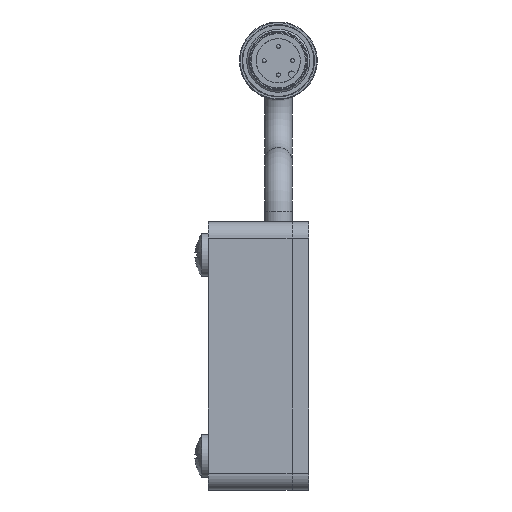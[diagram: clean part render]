
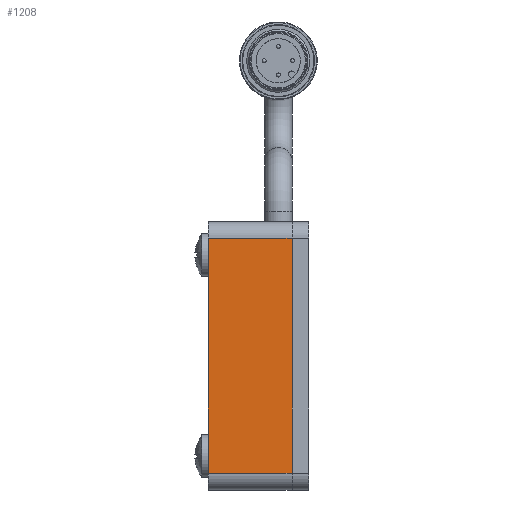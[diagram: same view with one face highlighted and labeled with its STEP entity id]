
A CAD part, left-side view. The second image highlights one B-rep face of the part: STEP entity #1208.
In plain terms, the highlighted planar face has unit normal (-1, 0, 0).
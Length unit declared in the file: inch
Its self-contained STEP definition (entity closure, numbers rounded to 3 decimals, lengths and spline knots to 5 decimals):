
#42 = CARTESIAN_POINT ( 'NONE',  ( -6.5, 0.3125, 1. ) ) ;
#144 = VERTEX_POINT ( 'NONE', #11715 ) ;
#347 = DIRECTION ( 'NONE',  ( 0., 1., 0. ) ) ;
#616 = VECTOR ( 'NONE', #10093, 39.37008 ) ;
#968 = LINE ( 'NONE', #6034, #616 ) ;
#1077 = AXIS2_PLACEMENT_3D ( 'NONE', #42, #10523, #8213 ) ;
#1208 = ADVANCED_FACE ( 'NONE', ( #12535 ), #2309, .F. ) ;
#1223 = VERTEX_POINT ( 'NONE', #3123 ) ;
#1573 = ORIENTED_EDGE ( 'NONE', *, *, #9489, .T. ) ;
#2309 = PLANE ( 'NONE',  #1077 ) ;
#2551 = VECTOR ( 'NONE', #347, 39.37008 ) ;
#3021 = ORIENTED_EDGE ( 'NONE', *, *, #4554, .F. ) ;
#3123 = CARTESIAN_POINT ( 'NONE',  ( -6.5, 0.3125, 0.875 ) ) ;
#3373 = CARTESIAN_POINT ( 'NONE',  ( -6.5, -0.3125, 0.875 ) ) ;
#3379 = VECTOR ( 'NONE', #12256, 39.37008 ) ;
#3603 = VECTOR ( 'NONE', #7059, 39.37008 ) ;
#4319 = VERTEX_POINT ( 'NONE', #3373 ) ;
#4504 = LINE ( 'NONE', #7579, #2551 ) ;
#4554 = EDGE_CURVE ( 'NONE', #144, #1223, #6032, .T. ) ;
#5005 = EDGE_CURVE ( 'NONE', #4319, #1223, #4504, .T. ) ;
#5803 = EDGE_LOOP ( 'NONE', ( #3021, #1573, #5912, #7500 ) ) ;
#5912 = ORIENTED_EDGE ( 'NONE', *, *, #7540, .T. ) ;
#6032 = LINE ( 'NONE', #8121, #3603 ) ;
#6034 = CARTESIAN_POINT ( 'NONE',  ( -6.5, -0.3125, 1. ) ) ;
#7059 = DIRECTION ( 'NONE',  ( 0., 0., 1. ) ) ;
#7500 = ORIENTED_EDGE ( 'NONE', *, *, #5005, .T. ) ;
#7540 = EDGE_CURVE ( 'NONE', #11802, #4319, #968, .T. ) ;
#7579 = CARTESIAN_POINT ( 'NONE',  ( -6.5, 0.3125, 0.875 ) ) ;
#8121 = CARTESIAN_POINT ( 'NONE',  ( -6.5, 0.3125, 1. ) ) ;
#8122 = LINE ( 'NONE', #10091, #3379 ) ;
#8213 = DIRECTION ( 'NONE',  ( 0., 0., -1. ) ) ;
#9489 = EDGE_CURVE ( 'NONE', #144, #11802, #8122, .T. ) ;
#10091 = CARTESIAN_POINT ( 'NONE',  ( -6.5, 0.3125, -0.875 ) ) ;
#10093 = DIRECTION ( 'NONE',  ( 0., 0., 1. ) ) ;
#10523 = DIRECTION ( 'NONE',  ( 1., 0., 0. ) ) ;
#11715 = CARTESIAN_POINT ( 'NONE',  ( -6.5, 0.3125, -0.875 ) ) ;
#11802 = VERTEX_POINT ( 'NONE', #12682 ) ;
#12256 = DIRECTION ( 'NONE',  ( 0., -1., 0. ) ) ;
#12535 = FACE_OUTER_BOUND ( 'NONE', #5803, .T. ) ;
#12682 = CARTESIAN_POINT ( 'NONE',  ( -6.5, -0.3125, -0.875 ) ) ;
